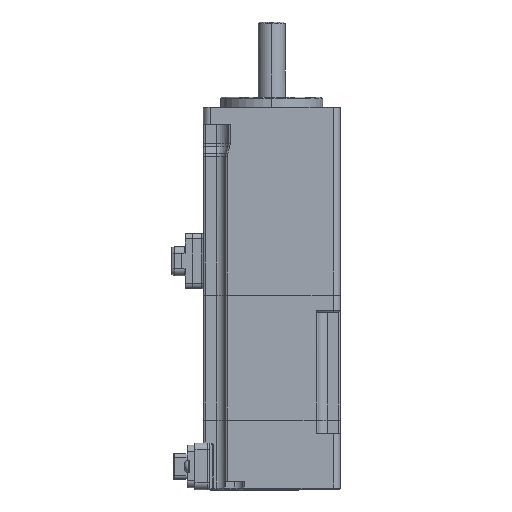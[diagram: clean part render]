
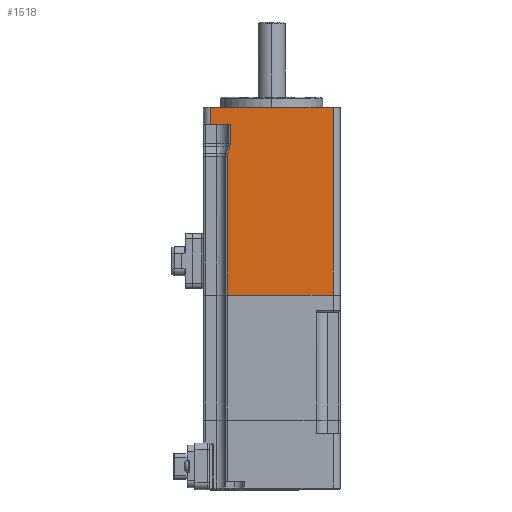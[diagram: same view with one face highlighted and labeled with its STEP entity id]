
A CAD part, top view. The second image highlights one B-rep face of the part: STEP entity #1518.
In plain terms, the highlighted planar face has unit normal (0, 0, 1).
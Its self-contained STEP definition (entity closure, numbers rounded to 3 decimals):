
#1251 = VERTEX_POINT('',#1252);
#1252 = CARTESIAN_POINT('',(-18.,-61.992,20.));
#1259 = EDGE_CURVE('',#1260,#1251,#1262,.T.);
#1260 = VERTEX_POINT('',#1261);
#1261 = CARTESIAN_POINT('',(-18.,-56.992,20.));
#1262 = LINE('',#1263,#1264);
#1263 = CARTESIAN_POINT('',(-18.,-53.992,20.));
#1264 = VECTOR('',#1265,1.);
#1265 = DIRECTION('',(-0.,-1.,-0.));
#1282 = EDGE_CURVE('',#1283,#1285,#1287,.T.);
#1283 = VERTEX_POINT('',#1284);
#1284 = CARTESIAN_POINT('',(18.,-56.992,20.));
#1285 = VERTEX_POINT('',#1286);
#1286 = CARTESIAN_POINT('',(18.,-111.992,20.));
#1287 = LINE('',#1288,#1289);
#1288 = CARTESIAN_POINT('',(18.,-53.992,20.));
#1289 = VECTOR('',#1290,1.);
#1290 = DIRECTION('',(-0.,-1.,-0.));
#1400 = VERTEX_POINT('',#1401);
#1401 = CARTESIAN_POINT('',(-13.,-71.392,20.));
#1408 = EDGE_CURVE('',#1409,#1400,#1411,.T.);
#1409 = VERTEX_POINT('',#1410);
#1410 = CARTESIAN_POINT('',(-12.907,-70.718,20.));
#1411 = CIRCLE('',#1412,2.5);
#1412 = AXIS2_PLACEMENT_3D('',#1413,#1414,#1415);
#1413 = CARTESIAN_POINT('',(-10.5,-71.392,20.));
#1414 = DIRECTION('',(0.,0.,1.));
#1415 = DIRECTION('',(-1.,0.,0.));
#1442 = EDGE_CURVE('',#1443,#1409,#1445,.T.);
#1443 = VERTEX_POINT('',#1444);
#1444 = CARTESIAN_POINT('',(-12.293,-68.524,20.));
#1445 = LINE('',#1446,#1447);
#1446 = CARTESIAN_POINT('',(-8.935,-56.531,20.));
#1447 = VECTOR('',#1448,1.);
#1448 = DIRECTION('',(-0.27,-0.963,0.)
  );
#1472 = EDGE_CURVE('',#1473,#1443,#1475,.T.);
#1473 = VERTEX_POINT('',#1474);
#1474 = CARTESIAN_POINT('',(-12.163,-67.58,20.));
#1475 = CIRCLE('',#1476,3.5);
#1476 = AXIS2_PLACEMENT_3D('',#1477,#1478,#1479);
#1477 = CARTESIAN_POINT('',(-15.663,-67.58,20.));
#1478 = DIRECTION('',(0.,0.,-1.));
#1479 = DIRECTION('',(-1.,0.,0.));
#1498 = EDGE_CURVE('',#1499,#1473,#1501,.T.);
#1499 = VERTEX_POINT('',#1500);
#1500 = CARTESIAN_POINT('',(-12.163,-61.992,20.));
#1501 = LINE('',#1502,#1503);
#1502 = CARTESIAN_POINT('',(-12.163,-67.58,20.));
#1503 = VECTOR('',#1504,1.);
#1504 = DIRECTION('',(-0.,-1.,-0.));
#1518 = ADVANCED_FACE('',(#1519),#1553,.F.);
#1519 = FACE_BOUND('',#1520,.T.);
#1520 = EDGE_LOOP('',(#1521,#1527,#1528,#1529,#1530,#1531,#1539,#1545,
    #1546,#1552));
#1521 = ORIENTED_EDGE('',*,*,#1522,.T.);
#1522 = EDGE_CURVE('',#1251,#1499,#1523,.T.);
#1523 = LINE('',#1524,#1525);
#1524 = CARTESIAN_POINT('',(-18.,-61.992,20.));
#1525 = VECTOR('',#1526,1.);
#1526 = DIRECTION('',(1.,0.,0.));
#1527 = ORIENTED_EDGE('',*,*,#1498,.T.);
#1528 = ORIENTED_EDGE('',*,*,#1472,.T.);
#1529 = ORIENTED_EDGE('',*,*,#1442,.T.);
#1530 = ORIENTED_EDGE('',*,*,#1408,.T.);
#1531 = ORIENTED_EDGE('',*,*,#1532,.T.);
#1532 = EDGE_CURVE('',#1400,#1533,#1535,.T.);
#1533 = VERTEX_POINT('',#1534);
#1534 = CARTESIAN_POINT('',(-13.,-111.992,20.));
#1535 = LINE('',#1536,#1537);
#1536 = CARTESIAN_POINT('',(-13.,-53.992,20.));
#1537 = VECTOR('',#1538,1.);
#1538 = DIRECTION('',(-0.,-1.,-0.));
#1539 = ORIENTED_EDGE('',*,*,#1540,.T.);
#1540 = EDGE_CURVE('',#1533,#1285,#1541,.T.);
#1541 = LINE('',#1542,#1543);
#1542 = CARTESIAN_POINT('',(-18.,-111.992,20.));
#1543 = VECTOR('',#1544,1.);
#1544 = DIRECTION('',(1.,0.,0.));
#1545 = ORIENTED_EDGE('',*,*,#1282,.F.);
#1546 = ORIENTED_EDGE('',*,*,#1547,.T.);
#1547 = EDGE_CURVE('',#1283,#1260,#1548,.T.);
#1548 = LINE('',#1549,#1550);
#1549 = CARTESIAN_POINT('',(-18.,-56.992,20.));
#1550 = VECTOR('',#1551,1.);
#1551 = DIRECTION('',(-1.,0.,0.));
#1552 = ORIENTED_EDGE('',*,*,#1259,.T.);
#1553 = PLANE('',#1554);
#1554 = AXIS2_PLACEMENT_3D('',#1555,#1556,#1557);
#1555 = CARTESIAN_POINT('',(-18.,-53.992,20.));
#1556 = DIRECTION('',(0.,0.,-1.));
#1557 = DIRECTION('',(-1.,0.,0.));
